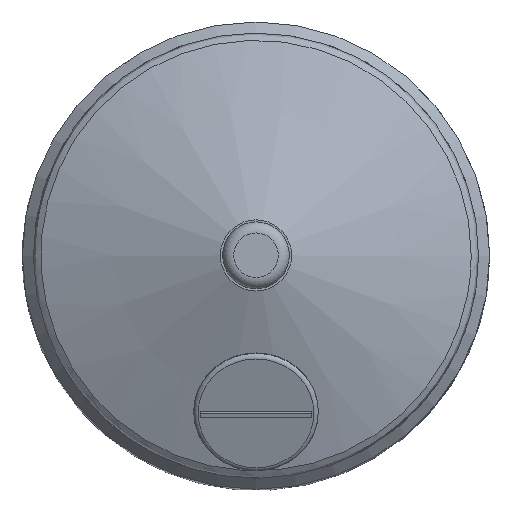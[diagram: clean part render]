
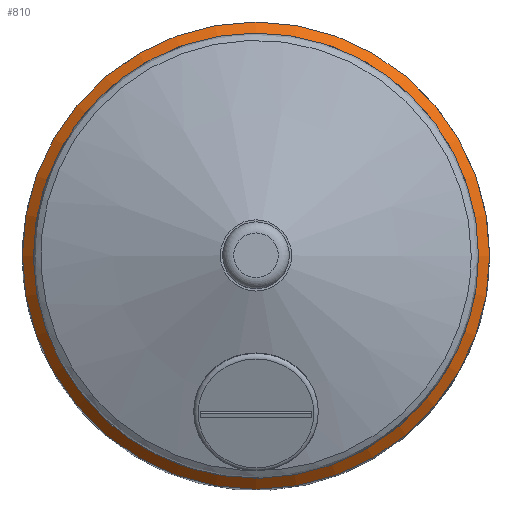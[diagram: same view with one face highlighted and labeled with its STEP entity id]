
A CAD part, top view. The second image highlights one B-rep face of the part: STEP entity #810.
In plain terms, the highlighted conical face has half-angle 45 degrees and reference radius 1050 mm.
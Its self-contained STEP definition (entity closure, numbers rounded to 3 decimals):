
#610 = VERTEX_POINT('',#611);
#611 = CARTESIAN_POINT('',(1050.,0.,4084.08));
#618 = CYLINDRICAL_SURFACE('',#619,1050.);
#619 = AXIS2_PLACEMENT_3D('',#620,#621,#622);
#620 = CARTESIAN_POINT('',(0.,0.,1164.052));
#621 = DIRECTION('',(0.,0.,1.));
#622 = DIRECTION('',(1.,0.,0.));
#637 = EDGE_CURVE('',#610,#610,#638,.T.);
#638 = SURFACE_CURVE('',#639,(#644,#651),.PCURVE_S1.);
#639 = CIRCLE('',#640,1050.);
#640 = AXIS2_PLACEMENT_3D('',#641,#642,#643);
#641 = CARTESIAN_POINT('',(0.,0.,4084.08));
#642 = DIRECTION('',(0.,0.,1.));
#643 = DIRECTION('',(1.,0.,0.));
#644 = PCURVE('',#618,#645);
#645 = DEFINITIONAL_REPRESENTATION('',(#646),#650);
#646 = LINE('',#647,#648);
#647 = CARTESIAN_POINT('',(0.,2920.028));
#648 = VECTOR('',#649,1.);
#649 = DIRECTION('',(1.,0.));
#650 = ( GEOMETRIC_REPRESENTATION_CONTEXT(2) 
PARAMETRIC_REPRESENTATION_CONTEXT() REPRESENTATION_CONTEXT('2D SPACE',''
  ) );
#651 = PCURVE('',#652,#657);
#652 = CONICAL_SURFACE('',#653,1050.,0.785);
#653 = AXIS2_PLACEMENT_3D('',#654,#655,#656);
#654 = CARTESIAN_POINT('',(0.,0.,4084.08));
#655 = DIRECTION('',(-0.,-0.,-1.));
#656 = DIRECTION('',(1.,0.,0.));
#657 = DEFINITIONAL_REPRESENTATION('',(#658),#662);
#658 = LINE('',#659,#660);
#659 = CARTESIAN_POINT('',(-0.,-0.));
#660 = VECTOR('',#661,1.);
#661 = DIRECTION('',(-1.,-0.));
#662 = ( GEOMETRIC_REPRESENTATION_CONTEXT(2) 
PARAMETRIC_REPRESENTATION_CONTEXT() REPRESENTATION_CONTEXT('2D SPACE',''
  ) );
#810 = ADVANCED_FACE('',(#811),#652,.T.);
#811 = FACE_BOUND('',#812,.T.);
#812 = EDGE_LOOP('',(#813,#814,#835,#862));
#813 = ORIENTED_EDGE('',*,*,#637,.T.);
#814 = ORIENTED_EDGE('',*,*,#815,.T.);
#815 = EDGE_CURVE('',#610,#816,#818,.T.);
#816 = VERTEX_POINT('',#817);
#817 = CARTESIAN_POINT('',(1000.,0.,4134.08));
#818 = SEAM_CURVE('',#819,(#823,#829),.PCURVE_S1.);
#819 = LINE('',#820,#821);
#820 = CARTESIAN_POINT('',(1050.,0.,4084.08));
#821 = VECTOR('',#822,1.);
#822 = DIRECTION('',(-0.707,0.,0.707));
#823 = PCURVE('',#652,#824);
#824 = DEFINITIONAL_REPRESENTATION('',(#825),#828);
#825 = B_SPLINE_CURVE_WITH_KNOTS('',1,(#826,#827),.UNSPECIFIED.,.F.,.F.,
  (2,2),(0.,70.711),.PIECEWISE_BEZIER_KNOTS.);
#826 = CARTESIAN_POINT('',(0.,0.));
#827 = CARTESIAN_POINT('',(0.,-50.));
#828 = ( GEOMETRIC_REPRESENTATION_CONTEXT(2) 
PARAMETRIC_REPRESENTATION_CONTEXT() REPRESENTATION_CONTEXT('2D SPACE',''
  ) );
#829 = PCURVE('',#652,#830);
#830 = DEFINITIONAL_REPRESENTATION('',(#831),#834);
#831 = B_SPLINE_CURVE_WITH_KNOTS('',1,(#832,#833),.UNSPECIFIED.,.F.,.F.,
  (2,2),(0.,70.711),.PIECEWISE_BEZIER_KNOTS.);
#832 = CARTESIAN_POINT('',(-6.283,0.));
#833 = CARTESIAN_POINT('',(-6.283,-50.));
#834 = ( GEOMETRIC_REPRESENTATION_CONTEXT(2) 
PARAMETRIC_REPRESENTATION_CONTEXT() REPRESENTATION_CONTEXT('2D SPACE',''
  ) );
#835 = ORIENTED_EDGE('',*,*,#836,.F.);
#836 = EDGE_CURVE('',#816,#816,#837,.T.);
#837 = SURFACE_CURVE('',#838,(#843,#850),.PCURVE_S1.);
#838 = CIRCLE('',#839,1000.);
#839 = AXIS2_PLACEMENT_3D('',#840,#841,#842);
#840 = CARTESIAN_POINT('',(0.,0.,4134.08));
#841 = DIRECTION('',(0.,0.,1.));
#842 = DIRECTION('',(1.,0.,0.));
#843 = PCURVE('',#652,#844);
#844 = DEFINITIONAL_REPRESENTATION('',(#845),#849);
#845 = LINE('',#846,#847);
#846 = CARTESIAN_POINT('',(-0.,-50.));
#847 = VECTOR('',#848,1.);
#848 = DIRECTION('',(-1.,-0.));
#849 = ( GEOMETRIC_REPRESENTATION_CONTEXT(2) 
PARAMETRIC_REPRESENTATION_CONTEXT() REPRESENTATION_CONTEXT('2D SPACE',''
  ) );
#850 = PCURVE('',#851,#856);
#851 = CYLINDRICAL_SURFACE('',#852,1000.);
#852 = AXIS2_PLACEMENT_3D('',#853,#854,#855);
#853 = CARTESIAN_POINT('',(0.,0.,1164.052));
#854 = DIRECTION('',(0.,0.,1.));
#855 = DIRECTION('',(1.,0.,0.));
#856 = DEFINITIONAL_REPRESENTATION('',(#857),#861);
#857 = LINE('',#858,#859);
#858 = CARTESIAN_POINT('',(0.,2970.028));
#859 = VECTOR('',#860,1.);
#860 = DIRECTION('',(1.,0.));
#861 = ( GEOMETRIC_REPRESENTATION_CONTEXT(2) 
PARAMETRIC_REPRESENTATION_CONTEXT() REPRESENTATION_CONTEXT('2D SPACE',''
  ) );
#862 = ORIENTED_EDGE('',*,*,#815,.F.);
